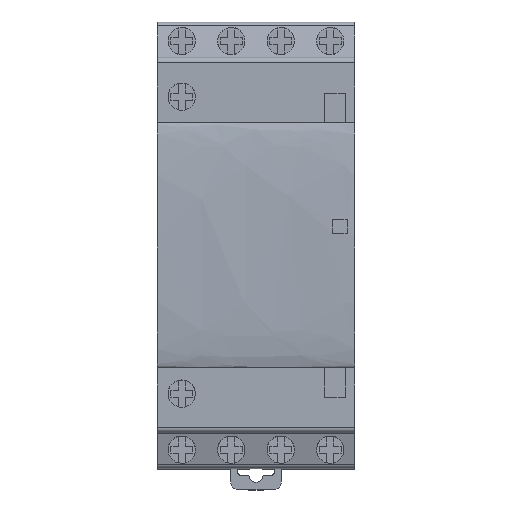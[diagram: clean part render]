
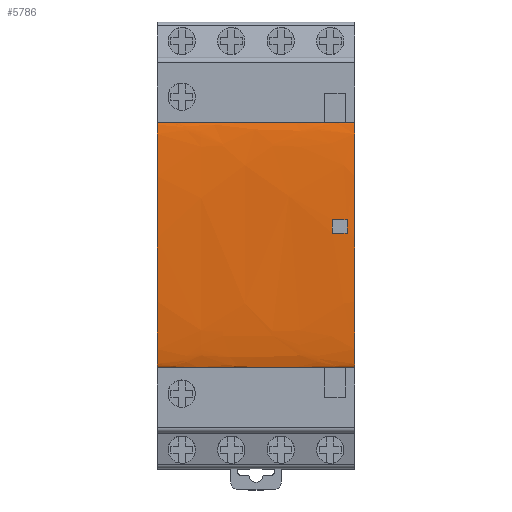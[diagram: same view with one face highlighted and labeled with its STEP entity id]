
A CAD part, top view. The second image highlights one B-rep face of the part: STEP entity #5786.
In plain terms, the highlighted free-form (B-spline) face has degree [3, 1] with [4, 2] control points.
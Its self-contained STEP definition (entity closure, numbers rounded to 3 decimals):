
#159 = CARTESIAN_POINT ( 'NONE',  ( 34.85, -36.35, 68.118 ) ) ;
#372 = LINE ( 'NONE', #10993, #3053 ) ;
#452 = VERTEX_POINT ( 'NONE', #2631 ) ;
#535 = EDGE_CURVE ( 'NONE', #2766, #10749, #8822, .T. ) ;
#1261 = CARTESIAN_POINT ( 'NONE',  ( 36.25, -18.5, 66.65 ) ) ;
#1268 = VERTEX_POINT ( 'NONE', #159 ) ;
#1322 = EDGE_CURVE ( 'NONE', #4566, #4674, #3819, .T. ) ;
#1518 = CARTESIAN_POINT ( 'NONE',  ( 34.85, -38.85, 68.143 ) ) ;
#1631 = DIRECTION ( 'NONE',  ( -1., 0., 0. ) ) ;
#1846 = CARTESIAN_POINT ( 'NONE',  ( 0., -18.5, 66.65 ) ) ;
#2033 = ORIENTED_EDGE ( 'NONE', *, *, #1322, .T. ) ;
#2504 = EDGE_LOOP ( 'NONE', ( #3347, #3608, #11029, #2033 ) ) ;
#2631 = CARTESIAN_POINT ( 'NONE',  ( 36.25, -63.5, 66.65 ) ) ;
#2710 = CARTESIAN_POINT ( 'NONE',  ( 0., -18.5, 69.65 ) ) ;
#2766 = VERTEX_POINT ( 'NONE', #6221 ) ;
#2859 = LINE ( 'NONE', #6396, #6807 ) ;
#2861 = EDGE_CURVE ( 'NONE', #9661, #10749, #2859, .T. ) ;
#3053 = VECTOR ( 'NONE', #7561, 1000. ) ;
#3169 = CARTESIAN_POINT ( 'NONE',  ( 36.25, -63.5, 66.65 ) ) ;
#3256 = CARTESIAN_POINT ( 'NONE',  ( 34.85, -38.01, 68.138 ) ) ;
#3323 = DIRECTION ( 'NONE',  ( -1., 0., 0. ) ) ;
#3347 = ORIENTED_EDGE ( 'NONE', *, *, #6365, .T. ) ;
#3388 = ORIENTED_EDGE ( 'NONE', *, *, #2861, .T. ) ;
#3608 = ORIENTED_EDGE ( 'NONE', *, *, #4158, .F. ) ;
#3819 = LINE ( 'NONE', #9585, #11184 ) ;
#3920 = CARTESIAN_POINT ( 'NONE',  ( 36.25, -63.5, 69.65 ) ) ;
#4074 = CARTESIAN_POINT ( 'NONE',  ( 32.15, -38.85, 68.143 ) ) ;
#4158 = EDGE_CURVE ( 'NONE', #452, #4415, #372, .T. ) ;
#4167 = CARTESIAN_POINT ( 'NONE',  ( 0., -63.5, 66.65 ) ) ;
#4415 = VERTEX_POINT ( 'NONE', #4167 ) ;
#4566 = VERTEX_POINT ( 'NONE', #5148 ) ;
#4567 =( BOUNDED_CURVE ( )  B_SPLINE_CURVE ( 3, ( #1261, #7471, #3920, #3169 ),
 .UNSPECIFIED., .F., .F. ) 
 B_SPLINE_CURVE_WITH_KNOTS ( ( 4, 4 ),
 ( 0., 3.142 ),
 .UNSPECIFIED. ) 
 CURVE ( )  GEOMETRIC_REPRESENTATION_ITEM ( )  RATIONAL_B_SPLINE_CURVE ( ( 1., 0.333, 0.333, 1. ) ) 
 REPRESENTATION_ITEM ( '' )  );
#4674 = VERTEX_POINT ( 'NONE', #1846 ) ;
#4788 = EDGE_CURVE ( 'NONE', #4566, #452, #4567, .T. ) ;
#4872 = CARTESIAN_POINT ( 'NONE',  ( 34.85, -36.35, 68.118 ) ) ;
#4885 = CARTESIAN_POINT ( 'NONE',  ( 36.25, -36.35, 68.118 ) ) ;
#5094 = CARTESIAN_POINT ( 'NONE',  ( 0., -18.5, 66.65 ) ) ;
#5148 = CARTESIAN_POINT ( 'NONE',  ( 36.25, -18.5, 66.65 ) ) ;
#5656 = CARTESIAN_POINT ( 'NONE',  ( 0., -18.5, 69.65 ) ) ;
#5764 = CARTESIAN_POINT ( 'NONE',  ( 0., -63.5, 69.65 ) ) ;
#5786 = ADVANCED_FACE ( 'NONE', ( #9627, #8815 ), #7084, .F. ) ;
#5822 = CARTESIAN_POINT ( 'NONE',  ( 0., -18.5, 66.65 ) ) ;
#5833 =( BOUNDED_CURVE ( )  B_SPLINE_CURVE ( 3, ( #5822, #5656, #5764, #11049 ),
 .UNSPECIFIED., .F., .F. ) 
 B_SPLINE_CURVE_WITH_KNOTS ( ( 4, 4 ),
 ( 0., 3.142 ),
 .UNSPECIFIED. ) 
 CURVE ( )  GEOMETRIC_REPRESENTATION_ITEM ( )  RATIONAL_B_SPLINE_CURVE ( ( 1., 0.333, 0.333, 1. ) ) 
 REPRESENTATION_ITEM ( '' )  );
#6069 = CARTESIAN_POINT ( 'NONE',  ( 0., -63.5, 66.65 ) ) ;
#6221 = CARTESIAN_POINT ( 'NONE',  ( 32.15, -36.35, 68.118 ) ) ;
#6365 = EDGE_CURVE ( 'NONE', #4674, #4415, #5833, .T. ) ;
#6396 = CARTESIAN_POINT ( 'NONE',  ( 36.25, -38.85, 68.143 ) ) ;
#6455 = CARTESIAN_POINT ( 'NONE',  ( 32.15, -38.009, 68.138 ) ) ;
#6601 = ORIENTED_EDGE ( 'NONE', *, *, #8420, .T. ) ;
#6807 = VECTOR ( 'NONE', #9951, 1000. ) ;
#7084 =( BOUNDED_SURFACE ( )  B_SPLINE_SURFACE ( 3, 1, ( 
 ( #11416, #5094 ),
 ( #10658, #2710 ),
 ( #8648, #10491 ),
 ( #7934, #6069 ) ),
 .UNSPECIFIED., .F., .F., .F. ) 
 B_SPLINE_SURFACE_WITH_KNOTS ( ( 4, 4 ),
 ( 2, 2 ),
 ( 0., 1. ),
 ( 0., 1. ),
 .UNSPECIFIED. ) 
 GEOMETRIC_REPRESENTATION_ITEM ( )  RATIONAL_B_SPLINE_SURFACE ( (
 ( 1., 1.),
 ( 0.333, 0.333),
 ( 0.333, 0.333),
 ( 1., 1.) ) ) 
 REPRESENTATION_ITEM ( '' )  SURFACE ( )  );
#7254 = VECTOR ( 'NONE', #3323, 1000. ) ;
#7340 = CARTESIAN_POINT ( 'NONE',  ( 32.15, -37.176, 68.129 ) ) ;
#7456 = CARTESIAN_POINT ( 'NONE',  ( 32.15, -36.35, 68.118 ) ) ;
#7471 = CARTESIAN_POINT ( 'NONE',  ( 36.25, -18.5, 69.65 ) ) ;
#7561 = DIRECTION ( 'NONE',  ( -1., 0., 0. ) ) ;
#7934 = CARTESIAN_POINT ( 'NONE',  ( 36.25, -63.5, 66.65 ) ) ;
#8364 = ORIENTED_EDGE ( 'NONE', *, *, #9210, .F. ) ;
#8420 = EDGE_CURVE ( 'NONE', #1268, #9661, #8654, .T. ) ;
#8480 = CARTESIAN_POINT ( 'NONE',  ( 34.85, -38.85, 68.143 ) ) ;
#8648 = CARTESIAN_POINT ( 'NONE',  ( 36.25, -63.5, 69.65 ) ) ;
#8654 =( BOUNDED_CURVE ( )  B_SPLINE_CURVE ( 3, ( #4872, #9468, #3256, #8480 ),
 .UNSPECIFIED., .F., .F. ) 
 B_SPLINE_CURVE_WITH_KNOTS ( ( 4, 4 ),
 ( 0., 1. ),
 .UNSPECIFIED. ) 
 CURVE ( )  GEOMETRIC_REPRESENTATION_ITEM ( )  RATIONAL_B_SPLINE_CURVE ( ( 1., 0.999, 0.999, 1. ) ) 
 REPRESENTATION_ITEM ( '' )  );
#8815 = FACE_OUTER_BOUND ( 'NONE', #2504, .T. ) ;
#8822 = B_SPLINE_CURVE_WITH_KNOTS ( 'NONE', 3,
 ( #7456, #7340, #6455, #10933 ),
 .UNSPECIFIED., .F., .F.,
 ( 4, 4 ),
 ( 0., 1. ),
 .UNSPECIFIED. ) ;
#9210 = EDGE_CURVE ( 'NONE', #1268, #2766, #11271, .T. ) ;
#9468 = CARTESIAN_POINT ( 'NONE',  ( 34.85, -37.176, 68.129 ) ) ;
#9585 = CARTESIAN_POINT ( 'NONE',  ( 36.25, -18.5, 66.65 ) ) ;
#9627 = FACE_BOUND ( 'NONE', #9922, .T. ) ;
#9661 = VERTEX_POINT ( 'NONE', #1518 ) ;
#9922 = EDGE_LOOP ( 'NONE', ( #8364, #6601, #3388, #11048 ) ) ;
#9951 = DIRECTION ( 'NONE',  ( -1., 0., 0. ) ) ;
#10491 = CARTESIAN_POINT ( 'NONE',  ( 0., -63.5, 69.65 ) ) ;
#10658 = CARTESIAN_POINT ( 'NONE',  ( 36.25, -18.5, 69.65 ) ) ;
#10749 = VERTEX_POINT ( 'NONE', #4074 ) ;
#10933 = CARTESIAN_POINT ( 'NONE',  ( 32.15, -38.85, 68.143 ) ) ;
#10993 = CARTESIAN_POINT ( 'NONE',  ( 36.25, -63.5, 66.65 ) ) ;
#11029 = ORIENTED_EDGE ( 'NONE', *, *, #4788, .F. ) ;
#11048 = ORIENTED_EDGE ( 'NONE', *, *, #535, .F. ) ;
#11049 = CARTESIAN_POINT ( 'NONE',  ( 0., -63.5, 66.65 ) ) ;
#11184 = VECTOR ( 'NONE', #1631, 1000. ) ;
#11271 = LINE ( 'NONE', #4885, #7254 ) ;
#11416 = CARTESIAN_POINT ( 'NONE',  ( 36.25, -18.5, 66.65 ) ) ;
